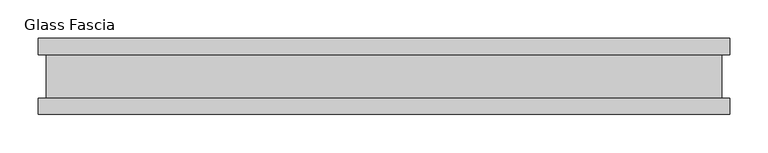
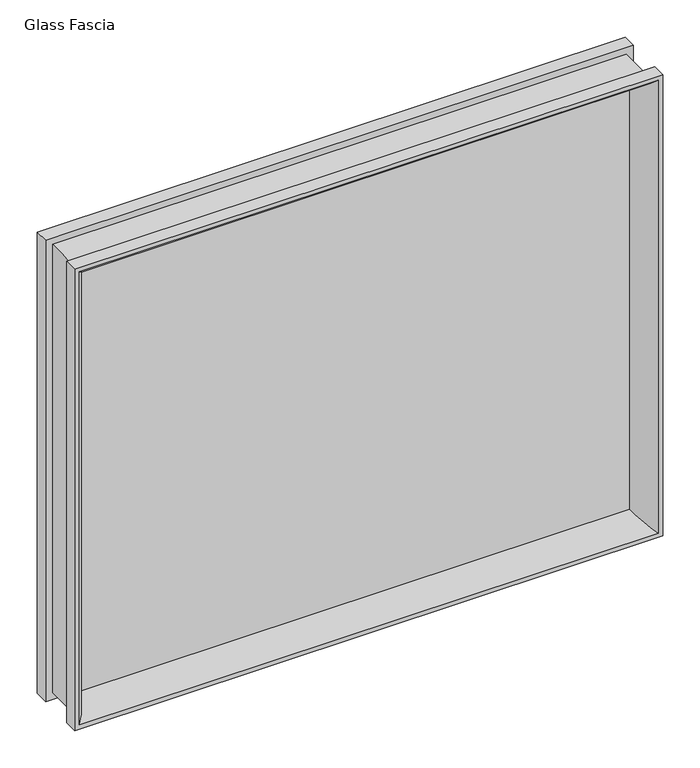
"""IFC4 building model written with IfcOpenShell, lengths in millimetres: proxy geometry, Panel-Fascia-Teknion-Altos-Glass : Glass Fascia."""

import ifcopenshell
import ifcopenshell.guid

model = None  # the IFC model being written
_history = None  # IfcOwnerHistory: only IFC2X3 demands one
_inside = {}  # id of a spatial element -> (the spatial element, [elements in it])
_under = {}  # id of a project, library or spatial element -> (it, [spatial elements below it])
_declared = {}  # id of a project -> (the project, [libraries it declares])
_typed = {}  # id of a type object -> (the type object, [elements of that type])
_made_of = {}  # id of a material, layer set ... -> (it, [elements and type objects made of it])


def new_model(schema):
    """Start an empty IFC model of exactly this schema.

    Asked for "IFC4X3", IfcOpenShell would pick the latest addendum, in which some entities
    have other attributes; the version numbers below select the first issue.
    IFC2X3 requires an IfcOwnerHistory on every rooted entity: one is made here for all.
    """
    global model, _history
    if schema == "IFC4X3":
        model = ifcopenshell.file(schema_version=(4, 3, 0, 0))
    else:
        model = ifcopenshell.file(schema=schema)
    _inside.clear()
    _under.clear()
    _declared.clear()
    _typed.clear()
    _made_of.clear()
    _history = None
    if model.schema == "IFC2X3":
        org = make("IfcOrganization", Name="unknown")
        user = make(
            "IfcPersonAndOrganization",
            ThePerson=make("IfcPerson", FamilyName="unknown"),
            TheOrganization=org,
        )
        app = make(
            "IfcApplication",
            ApplicationDeveloper=org,
            Version="unknown",
            ApplicationFullName="unknown",
            ApplicationIdentifier="unknown",
        )
        _history = make(
            "IfcOwnerHistory",
            OwningUser=user,
            OwningApplication=app,
            ChangeAction="ADDED",
            CreationDate=0,
        )
    return model


def make(cls, **values):
    """One entity of the class cls with the attributes given. An attribute that is None is left unset."""
    return model.create_entity(
        cls, **{name: value for name, value in values.items() if value is not None}
    )


def rooted(cls, **values):
    """An entity with a GlobalId (a new one), such as an element, a storey or a relation."""
    return make(cls, GlobalId=ifcopenshell.guid.new(), OwnerHistory=_history, **values)


def si_unit(unit_type, name, prefix=None):
    """IfcSIUnit, for example si_unit("LENGTHUNIT", "METRE", prefix="MILLI")."""
    return make("IfcSIUnit", UnitType=unit_type, Prefix=prefix, Name=name)


def assignment(units):
    """IfcUnitAssignment: the units of a project."""
    return None if units is None else make("IfcUnitAssignment", Units=units)


def point(xyz):
    """IfcCartesianPoint."""
    return None if xyz is None else make("IfcCartesianPoint", Coordinates=xyz)


def direction(xyz):
    """IfcDirection."""
    return None if xyz is None else make("IfcDirection", DirectionRatios=xyz)


def frame(location, z_axis=None, x_axis=None):
    """IfcAxis2Placement3D, a coordinate frame: its origin and axes. An axis left out is left unset."""
    return make(
        "IfcAxis2Placement3D",
        Location=point(location),
        Axis=direction(z_axis),
        RefDirection=direction(x_axis),
    )


def origin():
    """The frame at (0, 0, 0) with its axes left unset."""
    return frame((0.0, 0.0, 0.0))


def place(relative_to, where):
    """IfcLocalPlacement: puts the frame where relative to a parent placement (None: the world)."""
    return make(
        "IfcLocalPlacement", PlacementRelTo=relative_to, RelativePlacement=where
    )


def context(
    kind, dimensions, precision=None, world=None, true_north=None, identifier=None
):
    """IfcGeometricRepresentationContext, for example the 3D "Model" context."""
    return make(
        "IfcGeometricRepresentationContext",
        ContextIdentifier=identifier,
        ContextType=kind,
        CoordinateSpaceDimension=dimensions,
        Precision=precision,
        WorldCoordinateSystem=world,
        TrueNorth=true_north,
    )


def project(units=None, contexts=None):
    """IfcProject with its units and contexts."""
    return rooted(
        "IfcProject",
        Name="project",
        RepresentationContexts=contexts,
        UnitsInContext=assignment(units),
    )


def spatial(cls, under=None, at=None, **own):
    """A site, building, storey or space (cls), placed at a placement, below another one or the project."""
    s = rooted(cls, ObjectPlacement=at, **own)
    if under is not None:
        _under.setdefault(under.id(), (under, []))[1].append(s)
    return s


def polyline(points):
    """IfcPolyline through the points."""
    return make("IfcPolyline", Points=[point(p) for p in points])


def ellipse_curve(where, semi_axis1, semi_axis2):
    """IfcEllipse in the frame where."""
    return make(
        "IfcEllipse", Position=where, SemiAxis1=semi_axis1, SemiAxis2=semi_axis2
    )


def outline(outer, holes=None, kind="AREA"):
    """IfcArbitraryClosedProfileDef: a profile drawn as a closed curve; with holes, ...WithVoids."""
    if holes is None:
        return make("IfcArbitraryClosedProfileDef", ProfileType=kind, OuterCurve=outer)
    return make(
        "IfcArbitraryProfileDefWithVoids",
        ProfileType=kind,
        OuterCurve=outer,
        InnerCurves=holes,
    )


def extrude(swept, where, along, depth):
    """IfcExtrudedAreaSolid: the profile swept, set in the frame where, extruded along a direction by depth."""
    return make(
        "IfcExtrudedAreaSolid",
        SweptArea=swept,
        Position=where,
        ExtrudedDirection=direction(along),
        Depth=depth,
    )


def shape(context_of_items, identifier, shape_type, items):
    """IfcShapeRepresentation: the items that make up one representation, for example the "Body"."""
    return make(
        "IfcShapeRepresentation",
        ContextOfItems=context_of_items,
        RepresentationIdentifier=identifier,
        RepresentationType=shape_type,
        Items=items,
    )


def source(mapping_origin, context_of_items, identifier, shape_type, items):
    """IfcRepresentationMap: a shape defined once, which mapped items show again and again."""
    return make(
        "IfcRepresentationMap",
        MappingOrigin=mapping_origin,
        MappedRepresentation=shape(context_of_items, identifier, shape_type, items),
    )


def transform(
    local_origin,
    x_axis=None,
    y_axis=None,
    z_axis=None,
    scale=None,
    scale2=None,
    scale3=None,
    uniform=True,
):
    """IfcCartesianTransformationOperator3D, or its non-uniform kind. x_axis, y_axis, z_axis: its Axis1, 2, 3."""
    if uniform:
        return make(
            "IfcCartesianTransformationOperator3D",
            Axis1=direction(x_axis),
            Axis2=direction(y_axis),
            LocalOrigin=point(local_origin),
            Scale=scale,
            Axis3=direction(z_axis),
        )
    return make(
        "IfcCartesianTransformationOperator3DnonUniform",
        Axis1=direction(x_axis),
        Axis2=direction(y_axis),
        LocalOrigin=point(local_origin),
        Scale=scale,
        Axis3=direction(z_axis),
        Scale2=scale2,
        Scale3=scale3,
    )


def mapped(mapping_source, mapping_target):
    """IfcMappedItem: shows the shape of a source again, moved by a transform."""
    return make(
        "IfcMappedItem", MappingSource=mapping_source, MappingTarget=mapping_target
    )


def made_of(thing, what):
    """Note that an element or type object is made of a material, layer set ...; save() writes the relation."""
    if what is not None:
        _made_of.setdefault(what.id(), (what, []))[1].append(thing)
    return thing


def element(
    cls,
    number,
    at=None,
    inside=None,
    cuts=None,
    type_object=None,
    material=None,
    context=None,
    identifier="Body",
    shape_type=None,
    held_by="IfcProductDefinitionShape",
    body=None,
    shapes=None,
    **own,
):
    """One element of the class cls, such as IfcWall. Its Tag is "e" and its number.

    at: its placement. inside: the storey or other place that contains it. cuts: it is an
    opening in that element (IfcRelVoidsElement). A single representation is given by context,
    identifier, shape_type and body (its items); several are given by shapes. held_by: the class
    of the entity that holds the representations. save() writes the other relations.
    """
    e = rooted(cls, Tag="e%d" % number, ObjectPlacement=at, **own)
    if body is not None:
        shapes = [shape(context, identifier, shape_type, body)]
    if shapes is not None:
        e.Representation = make(held_by, Representations=shapes)
    if inside is not None:
        _inside.setdefault(inside.id(), (inside, []))[1].append(e)
    if cuts is not None:
        rooted(
            "IfcRelVoidsElement", RelatingBuildingElement=cuts, RelatedOpeningElement=e
        )
    if type_object is not None:
        _typed.setdefault(type_object.id(), (type_object, []))[1].append(e)
    return made_of(e, material)


def aggregate(whole, parts):
    """IfcRelAggregates: a whole, such as a stair, and the parts it consists of."""
    return rooted("IfcRelAggregates", RelatingObject=whole, RelatedObjects=parts)


def save(model, path):
    """Write the relations noted so far, then the file.

    IfcRelAggregates (storeys below a building ...), IfcRelContainedInSpatialStructure (elements
    in a storey), IfcRelDefinesByType, IfcRelAssociatesMaterial and IfcRelDeclares: one each for
    every whole, place, type object, material and project.
    """
    for whole, parts in _under.values():
        aggregate(whole, parts)
    for where, things in _inside.values():
        rooted(
            "IfcRelContainedInSpatialStructure",
            RelatedElements=things,
            RelatingStructure=where,
        )
    for kind, things in _typed.values():
        rooted("IfcRelDefinesByType", RelatedObjects=things, RelatingType=kind)
    for what, things in _made_of.values():
        rooted("IfcRelAssociatesMaterial", RelatedObjects=things, RelatingMaterial=what)
    for by, libraries in _declared.values():
        rooted("IfcRelDeclares", RelatingContext=by, RelatedDefinitions=libraries)
    model.write(path)


def plane_surface(at):
    """IfcPlane: the flat surface through the origin of the frame at, square to its z axis."""
    return make("IfcPlane", Position=at)


def cylinder_surface(at, radius):
    """IfcCylindricalSurface: all points at the distance radius from the z axis of the frame at."""
    return make("IfcCylindricalSurface", Position=at, Radius=radius)


def advanced_brep(points, edges, surfaces, faces):
    """IfcAdvancedBrep: a solid bounded by faces that lie on surfaces and meet in shared edges.

    An edge is (start, end): straight between two places in points (the first is 0);
    or (start, end, curve); or (start, end, curve, False) where it runs against its curve.
    A face is (place in surfaces, loops), or (place, loops, False) where it looks against
    its surface's normal. A loop lists edges by number (the first is 1), with a minus sign
    where the edge is run from its end to its start. The first loop is the outer one.
    """
    corners = [point(p) for p in points]
    vertices = [make("IfcVertexPoint", VertexGeometry=c) for c in corners]
    made = []
    for start, end, *more in edges:
        made.append(
            make(
                "IfcEdgeCurve",
                EdgeStart=vertices[start],
                EdgeEnd=vertices[end],
                EdgeGeometry=more[0] if more else make("IfcPolyline", Points=[corners[start], corners[end]]),
                SameSense=more[1] if len(more) > 1 else True,
            )
        )
    hull = []
    for where, loops, *sense in faces:
        bounds = []
        for j, loop in enumerate(loops):
            ring = [make("IfcOrientedEdge", EdgeElement=made[abs(k) - 1], Orientation=k > 0) for k in loop]
            bounds.append(
                make(
                    "IfcFaceOuterBound" if j == 0 else "IfcFaceBound",
                    Bound=make("IfcEdgeLoop", EdgeList=ring),
                    Orientation=True,
                )
            )
        hull.append(make("IfcAdvancedFace", Bounds=bounds, FaceSurface=surfaces[where], SameSense=sense[0] if sense else True))
    return make("IfcAdvancedBrep", Outer=make("IfcClosedShell", CfsFaces=hull))


def glass_fascia_0a4ee349(model_context):
    return source(origin(), model_context, "Body", "SolidModel", [
        advanced_brep(
        [(429.1093308, 5.0827449, 731.8403332), (447.0641812, 50.0558594, 749.7951836), (447.0641812, 50.0558594, 10.1728164), (429.1093308, 5.0827449, 28.1276668), (439.5995219, -5.0827449, 742.3305243), (439.5995219, 5.0827449, 742.3305243), (439.5995219, 5.0827449, 17.6374757), (439.5995219, -5.0827449, 17.6374757), (447.0641812, -50.0558594, 749.7951836), (429.1093308, -5.0827449, 731.8403332), (429.1093308, -5.0827449, 28.1276668), (447.0641812, -50.0558594, 10.1728164), (454.0619976, -28.8801202, 756.793), (454.0619976, -50.0558594, 756.793), (454.0619976, -50.0558594, 3.175), (454.0619976, -28.8801202, 3.175), (443.2369977, 28.2698798, 745.9680001), (443.2369977, -28.8801202, 745.9680001), (443.2369977, -28.8801202, 13.9999999), (443.2369977, 28.2698798, 13.9999999), (454.0619976, 50.0558594, 756.793), (454.0619976, 28.2698798, 756.793), (454.0619976, 28.2698798, 3.175), (454.0619976, 50.0558594, 3.175), (-447.0641812, 50.0558594, 10.1728164), (-429.1093308, 5.0827449, 28.1276668), (-439.5995219, 5.0827449, 17.6374757), (-439.5995219, -5.0827449, 17.6374757), (-429.1093308, -5.0827449, 28.1276668), (-447.0641812, -50.0558594, 10.1728164), (-454.0619976, -50.0558594, 3.175), (-454.0619976, -28.8801202, 3.175), (-443.2369977, -28.8801202, 13.9999999), (-443.2369977, 28.2698798, 13.9999999), (-454.0619976, 28.2698798, 3.175), (-454.0619976, 50.0558594, 3.175), (-447.0641812, 50.0558594, 749.7951836), (-429.1093308, 5.0827449, 731.8403332), (-439.5995219, 5.0827449, 742.3305243), (-439.5995219, -5.0827449, 742.3305243), (-429.1093308, -5.0827449, 731.8403332), (-447.0641812, -50.0558594, 749.7951836), (-454.0619976, -50.0558594, 756.793), (-454.0619976, -28.8801202, 756.793), (-443.2369977, -28.8801202, 745.9680001), (-443.2369977, 28.2698798, 745.9680001), (-454.0619976, 28.2698798, 756.793), (-454.0619976, 50.0558594, 756.793)],
        [
            (0, 1, ellipse_curve(frame((481.1955682, 10.3587469, 783.9265705), z_axis=(0.7071067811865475, 0.0, -0.7071067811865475), x_axis=(0.7071067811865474, 0.0, 0.7071067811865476)), 74.0379946, 52.352768)),
            (1, 2),
            (2, 3, ellipse_curve(frame((481.1955682, 10.3587469, -23.9585705), z_axis=(0.7071067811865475, 0.0, 0.7071067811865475), x_axis=(-0.7071067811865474, 0.0, 0.7071067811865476)), 74.0379946, 52.352768)),
            (3, 0),
            (4, 5),
            (5, 6),
            (6, 7),
            (7, 4),
            (8, 9, ellipse_curve(frame((481.1955682, -10.3587469, 783.9265705), z_axis=(0.7071067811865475, 0.0, -0.7071067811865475), x_axis=(0.7071067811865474, 0.0, 0.7071067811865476)), 74.0379946, 52.352768)),
            (9, 10),
            (10, 11, ellipse_curve(frame((481.1955682, -10.3587469, -23.9585705), z_axis=(0.7071067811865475, 0.0, 0.7071067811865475), x_axis=(-0.7071067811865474, 0.0, 0.7071067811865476)), 74.0379946, 52.352768)),
            (11, 8),
            (12, 13),
            (13, 14),
            (14, 15),
            (15, 12),
            (16, 17),
            (17, 18),
            (18, 19),
            (19, 16),
            (20, 21),
            (21, 22),
            (22, 23),
            (23, 20),
            (2, 24),
            (24, 25, ellipse_curve(frame((-481.1955682, 10.3587469, -23.9585705), z_axis=(0.7071067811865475, 0.0, -0.7071067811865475), x_axis=(0.7071067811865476, 0.0, 0.7071067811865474)), 74.0379946, 52.352768)),
            (25, 3),
            (6, 26),
            (26, 27),
            (27, 7),
            (10, 28),
            (28, 29, ellipse_curve(frame((-481.1955682, -10.3587469, -23.9585705), z_axis=(0.7071067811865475, 0.0, -0.7071067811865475), x_axis=(0.7071067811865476, 0.0, 0.7071067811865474)), 74.0379946, 52.352768)),
            (29, 11),
            (14, 30),
            (30, 31),
            (31, 15),
            (18, 32),
            (32, 33),
            (33, 19),
            (22, 34),
            (34, 35),
            (35, 23),
            (24, 36),
            (36, 37, ellipse_curve(frame((-481.1955682, 10.3587469, 783.9265705), z_axis=(-0.7071067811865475, 0.0, -0.7071067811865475), x_axis=(0.7071067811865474, 0.0, -0.7071067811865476)), 74.0379946, 52.352768)),
            (37, 25),
            (26, 38),
            (38, 39),
            (39, 27),
            (28, 40),
            (40, 41, ellipse_curve(frame((-481.1955682, -10.3587469, 783.9265705), z_axis=(-0.7071067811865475, 0.0, -0.7071067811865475), x_axis=(0.7071067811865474, 0.0, -0.7071067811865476)), 74.0379946, 52.352768)),
            (41, 29),
            (30, 42),
            (42, 43),
            (43, 31),
            (32, 44),
            (44, 45),
            (45, 33),
            (34, 46),
            (46, 47),
            (47, 35),
            (47, 20),
            (1, 36),
            (0, 37),
            (5, 38),
            (4, 39),
            (9, 40),
            (8, 41),
            (13, 42),
            (12, 43),
            (17, 44),
            (16, 45),
            (21, 46),
        ],
        [
            cylinder_surface(frame((481.1955682, 10.3587469, 756.793), z_axis=(0.0, 0.0, 1.0), x_axis=(1.0, 0.0, 0.0)), 52.352768),
            plane_surface(frame((439.5995219, 5.0827449, 742.3305243), z_axis=(-1.0, 0.0, 0.0), x_axis=(0.0, 0.0, -1.0))),
            cylinder_surface(frame((481.1955682, -10.3587469, 756.793), z_axis=(0.0, 0.0, 1.0), x_axis=(1.0, 0.0, 0.0)), 52.352768),
            plane_surface(frame((454.0619976, -50.0558594, 756.793), z_axis=(1.0, 0.0, 0.0), x_axis=(0.0, 0.0, -1.0))),
            plane_surface(frame((443.2369977, -28.8801202, 745.9680001), z_axis=(1.0, 0.0, 0.0), x_axis=(0.0, 0.0, -1.0))),
            plane_surface(frame((454.0619976, 28.2698798, 756.793), z_axis=(1.0, 0.0, 0.0), x_axis=(0.0, 0.0, -1.0))),
            cylinder_surface(frame((454.0619976, 10.3587469, -23.9585705), z_axis=(1.0, 0.0, 0.0), x_axis=(0.0, 0.0, -1.0)), 52.352768),
            plane_surface(frame((439.5995219, 5.0827449, 17.6374757), z_axis=(0.0, 0.0, 1.0), x_axis=(-1.0, 0.0, 0.0))),
            cylinder_surface(frame((454.0619976, -10.3587469, -23.9585705), z_axis=(1.0, 0.0, 0.0), x_axis=(0.0, 0.0, -1.0)), 52.352768),
            plane_surface(frame((454.0619976, -50.0558594, 3.175), z_axis=(0.0, 0.0, -1.0), x_axis=(-1.0, 0.0, 0.0))),
            plane_surface(frame((443.2369977, -28.8801202, 13.9999999), z_axis=(0.0, 0.0, -1.0), x_axis=(-1.0, 0.0, 0.0))),
            plane_surface(frame((454.0619976, 28.2698798, 3.175), z_axis=(0.0, 0.0, -1.0), x_axis=(-1.0, 0.0, 0.0))),
            cylinder_surface(frame((-481.1955682, 10.3587469, 3.175), z_axis=(0.0, 0.0, -1.0), x_axis=(-1.0, 0.0, 0.0)), 52.352768),
            plane_surface(frame((-439.5995219, 5.0827449, 17.6374757), z_axis=(1.0, 0.0, 0.0), x_axis=(0.0, 0.0, 1.0))),
            cylinder_surface(frame((-481.1955682, -10.3587469, 3.175), z_axis=(0.0, 0.0, -1.0), x_axis=(-1.0, 0.0, 0.0)), 52.352768),
            plane_surface(frame((-454.0619976, -50.0558594, 3.175), z_axis=(-1.0, 0.0, 0.0), x_axis=(0.0, 0.0, 1.0))),
            plane_surface(frame((-443.2369977, -28.8801202, 13.9999999), z_axis=(-1.0, 0.0, 0.0), x_axis=(0.0, 0.0, 1.0))),
            plane_surface(frame((-454.0619976, 28.2698798, 3.175), z_axis=(-1.0, 0.0, 0.0), x_axis=(0.0, 0.0, 1.0))),
            plane_surface(frame((-454.0619976, 50.0558594, 756.793), z_axis=(0.0, 1.0, 0.0), x_axis=(1.0, 0.0, 0.0))),
            cylinder_surface(frame((-454.0619976, 10.3587469, 783.9265705), z_axis=(-1.0, 0.0, 0.0), x_axis=(0.0, 0.0, 1.0)), 52.352768),
            plane_surface(frame((-429.1093308, 5.0827449, 731.8403332), z_axis=(0.0, -1.0, 0.0), x_axis=(1.0, 0.0, 0.0))),
            plane_surface(frame((-439.5995219, 5.0827449, 742.3305243), z_axis=(0.0, 0.0, -1.0), x_axis=(1.0, 0.0, 0.0))),
            plane_surface(frame((-439.5995219, -5.0827449, 742.3305243), z_axis=(0.0, 1.0, 0.0), x_axis=(1.0, 0.0, 0.0))),
            cylinder_surface(frame((-454.0619976, -10.3587469, 783.9265705), z_axis=(-1.0, 0.0, 0.0), x_axis=(0.0, 0.0, 1.0)), 52.352768),
            plane_surface(frame((-447.0641812, -50.0558594, 749.7951836), z_axis=(0.0, -1.0, 0.0), x_axis=(1.0, 0.0, 0.0))),
            plane_surface(frame((-454.0619976, -50.0558594, 756.793), z_axis=(0.0, 0.0, 1.0), x_axis=(1.0, 0.0, 0.0))),
            plane_surface(frame((-454.0619976, -28.8801202, 756.793), z_axis=(0.0, 1.0, 0.0), x_axis=(1.0, 0.0, 0.0))),
            plane_surface(frame((-443.2369977, -28.8801202, 745.9680001), z_axis=(0.0, 0.0, 1.0), x_axis=(1.0, 0.0, 0.0))),
            plane_surface(frame((-443.2369977, 28.2698798, 745.9680001), z_axis=(0.0, -1.0, 0.0), x_axis=(1.0, 0.0, 0.0))),
            plane_surface(frame((-454.0619976, 28.2698798, 756.793), z_axis=(0.0, 0.0, 1.0), x_axis=(1.0, 0.0, 0.0))),
        ],
        [
            (0, [[1, 2, 3, 4]]),
            (1, [[5, 6, 7, 8]]),
            (2, [[9, 10, 11, 12]]),
            (3, [[13, 14, 15, 16]]),
            (4, [[17, 18, 19, 20]]),
            (5, [[21, 22, 23, 24]]),
            (6, [[-3, 25, 26, 27]]),
            (7, [[-7, 28, 29, 30]]),
            (8, [[-11, 31, 32, 33]]),
            (9, [[-15, 34, 35, 36]]),
            (10, [[-19, 37, 38, 39]]),
            (11, [[-23, 40, 41, 42]]),
            (12, [[-26, 43, 44, 45]]),
            (13, [[-29, 46, 47, 48]]),
            (14, [[-32, 49, 50, 51]]),
            (15, [[-35, 52, 53, 54]]),
            (16, [[-38, 55, 56, 57]]),
            (17, [[-41, 58, 59, 60]]),
            (18, [[-42, -60, 61, -24], [62, -43, -25, -2]]),
            (19, [[-44, -62, -1, 63]]),
            (20, [[64, -46, -28, -6], [-27, -45, -63, -4]]),
            (21, [[-47, -64, -5, 65]]),
            (22, [[-30, -48, -65, -8], [66, -49, -31, -10]]),
            (23, [[-50, -66, -9, 67]]),
            (24, [[68, -52, -34, -14], [-33, -51, -67, -12]]),
            (25, [[-53, -68, -13, 69]]),
            (26, [[-36, -54, -69, -16], [70, -55, -37, -18]]),
            (27, [[-56, -70, -17, 71]]),
            (28, [[72, -58, -40, -22], [-39, -57, -71, -20]]),
            (29, [[-59, -72, -21, -61]]),
        ],
    ),
        extrude(outline(polyline([(439.5995219, 2.9765625), (439.5995219, -2.9765625), (-439.5995219, -2.9765625), (-439.5995219, 2.9765625), (439.5995219, 2.9765625)])), frame((0.0, 0.0, 17.6374757), z_axis=(0.0, 0.0, 1.0), x_axis=(1.0, 0.0, 0.0)), (0.0, 0.0, 1.0), 724.6930485),
    ])


if __name__ == "__main__":
    model = new_model("IFC4")
    model_context = context("Model", 3, world=origin())
    ifc_project = project(units=[si_unit("LENGTHUNIT", "METRE", prefix="MILLI")], contexts=[model_context])
    site = spatial("IfcSite", under=ifc_project)
    building = spatial("IfcBuilding", under=site)
    placement = place(None, origin())
    glass_fascia_shape = glass_fascia_0a4ee349(model_context)
    element("IfcBuildingElementProxy", 1, Name="Panel-Fascia-Teknion-Altos-Glass : Glass Fascia", ObjectType="Panel-Fascia-Teknion-Altos-Glass : Glass Fascia", at=placement, inside=building, context=model_context, shape_type="MappedRepresentation", body=[
        mapped(glass_fascia_shape, transform((0.0, 0.0, 0.0), x_axis=(1.0, 0.0, 0.0), y_axis=(0.0, 1.0, 0.0), z_axis=(0.0, 0.0, 1.0))),
    ])
    save(model, "model.ifc")
